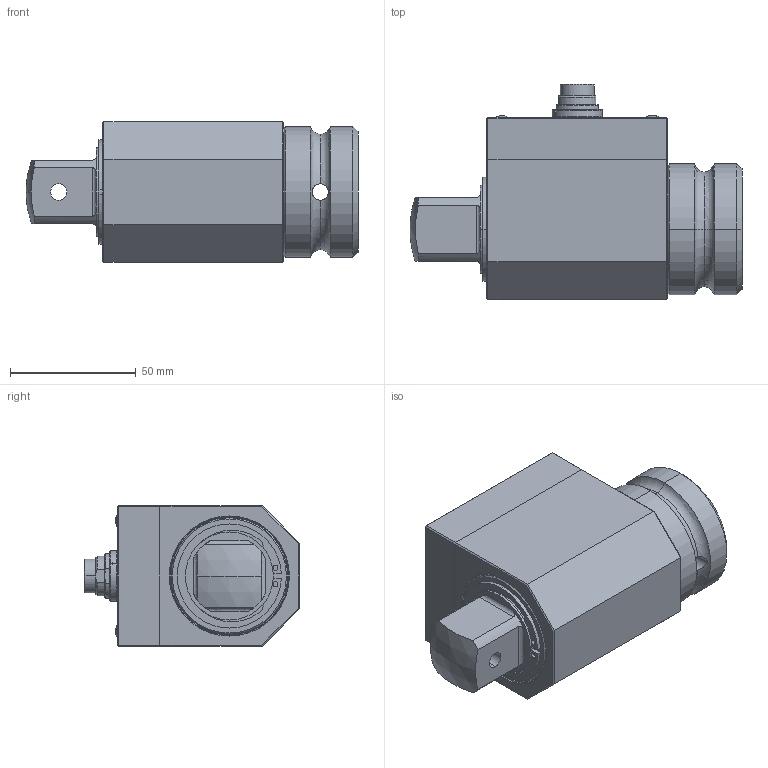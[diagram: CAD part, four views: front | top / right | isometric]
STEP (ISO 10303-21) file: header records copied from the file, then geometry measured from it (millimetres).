
FILE_DESCRIPTION (( 'STEP AP203' ), '1' );
FILE_NAME ('DRFN 1-w.STEP', '2014-05-13T11:28:04', ( 'nsi' ), ( '' ), 'SwSTEP 2.0', 'SolidWorks 2014', '' );
FILE_SCHEMA (( 'CONFIG_CONTROL_DESIGN' ));
Length unit declared in the file: millimetre
Products named in the file (1): DRFN 1-w
Bounding box: 132 x 85.7 x 56 mm (x, y, z)
Surface area: 45085 mm2 (no closed solid volume)
Topology: 0 solids, 17 shells, 278 faces, 806 edges, 539 vertices
Faces by surface type: plane 108, cylinder 60, cone 55, torus 45, sphere 6, bspline 4
Entity records: 9875 total; most frequent: CARTESIAN_POINT 2343, DIRECTION 1686, ORIENTED_EDGE 1389, EDGE_CURVE 804, AXIS2_PLACEMENT_3D 679, VERTEX_POINT 539, CIRCLE 404, VECTOR 328
